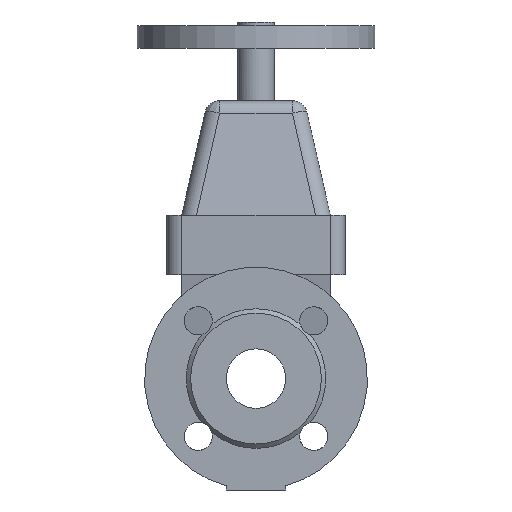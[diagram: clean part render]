
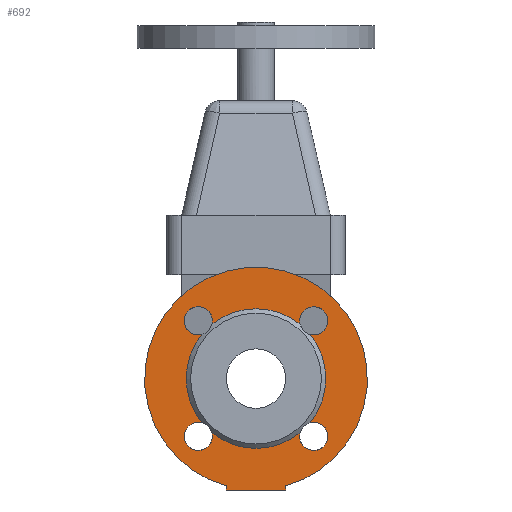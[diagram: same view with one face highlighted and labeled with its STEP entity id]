
A CAD part, front view. The second image highlights one B-rep face of the part: STEP entity #692.
In plain terms, the highlighted planar face has unit normal (0, -1, 0).
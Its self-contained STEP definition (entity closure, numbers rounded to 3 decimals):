
#692=ADVANCED_FACE('',(#1458,#1460),#1462,.T.);
#1458=FACE_BOUND('',#1459,.T.);
#1459=EDGE_LOOP('',(#2309,#2310,#2311,#2312));
#1460=FACE_BOUND('',#1461,.T.);
#1461=EDGE_LOOP('',(#2313,#2314,#2315,#2316,#2317,#2318,#2319,#2320,#2321,#2322,
#2323,#2324,#2325));
#1462=PLANE('',#1463);
#1463=AXIS2_PLACEMENT_3D('',#1464,#1465,#1466);
#1464=CARTESIAN_POINT('',(0.,-117.,0.));
#1465=DIRECTION('',(0.,-1.,0.));
#1466=DIRECTION('',(0.,0.,1.));
#2309=ORIENTED_EDGE('',*,*,#2576,.T.);
#2310=ORIENTED_EDGE('',*,*,#2575,.F.);
#2311=ORIENTED_EDGE('',*,*,#2572,.F.);
#2312=ORIENTED_EDGE('',*,*,#2571,.F.);
#2313=ORIENTED_EDGE('',*,*,#2586,.T.);
#2314=ORIENTED_EDGE('',*,*,#2588,.T.);
#2315=ORIENTED_EDGE('',*,*,#2625,.T.);
#2316=ORIENTED_EDGE('',*,*,#2585,.T.);
#2317=ORIENTED_EDGE('',*,*,#2584,.T.);
#2318=ORIENTED_EDGE('',*,*,#2626,.T.);
#2319=ORIENTED_EDGE('',*,*,#2582,.T.);
#2320=ORIENTED_EDGE('',*,*,#2581,.T.);
#2321=ORIENTED_EDGE('',*,*,#2627,.T.);
#2322=ORIENTED_EDGE('',*,*,#2577,.T.);
#2323=ORIENTED_EDGE('',*,*,#2579,.T.);
#2324=ORIENTED_EDGE('',*,*,#2628,.T.);
#2325=ORIENTED_EDGE('',*,*,#2629,.T.);
#2571=EDGE_CURVE('',#2911,#2909,#2913,.T.);
#2572=EDGE_CURVE('',#2909,#2914,#2915,.T.);
#2575=EDGE_CURVE('',#2914,#2917,#2919,.T.);
#2576=EDGE_CURVE('',#2911,#2917,#2920,.T.);
#2577=EDGE_CURVE('',#2921,#2922,#2923,.F.);
#2579=EDGE_CURVE('',#2922,#2924,#2926,.F.);
#2581=EDGE_CURVE('',#2930,#2927,#2931,.F.);
#2582=EDGE_CURVE('',#2928,#2930,#2932,.F.);
#2584=EDGE_CURVE('',#2936,#2933,#2937,.F.);
#2585=EDGE_CURVE('',#2934,#2936,#2938,.F.);
#2586=EDGE_CURVE('',#2939,#2940,#2941,.F.);
#2588=EDGE_CURVE('',#2940,#2942,#2944,.F.);
#2625=EDGE_CURVE('',#2942,#2934,#3005,.T.);
#2626=EDGE_CURVE('',#2933,#2928,#3006,.T.);
#2627=EDGE_CURVE('',#2927,#2921,#3007,.T.);
#2628=EDGE_CURVE('',#2924,#3008,#3009,.T.);
#2629=EDGE_CURVE('',#3008,#2939,#3010,.T.);
#2909=VERTEX_POINT('',#3645);
#2911=VERTEX_POINT('',#3649);
#2913=CIRCLE('',#3653,75.);
#2914=VERTEX_POINT('',#3657);
#2915=LINE('',#3658,#3659);
#2917=VERTEX_POINT('',#3664);
#2919=LINE('',#3668,#3669);
#2920=LINE('',#3671,#3672);
#2921=VERTEX_POINT('',#3674);
#2922=VERTEX_POINT('',#3675);
#2923=CIRCLE('',#3676,9.5);
#2924=VERTEX_POINT('',#3680);
#2926=CIRCLE('',#3773,9.5);
#2927=VERTEX_POINT('',#3777);
#2928=VERTEX_POINT('',#3778);
#2930=VERTEX_POINT('',#3871);
#2931=CIRCLE('',#3872,9.5);
#2932=CIRCLE('',#3876,9.5);
#2933=VERTEX_POINT('',#3880);
#2934=VERTEX_POINT('',#3881);
#2936=VERTEX_POINT('',#3974);
#2937=CIRCLE('',#3975,9.5);
#2938=CIRCLE('',#3979,9.5);
#2939=VERTEX_POINT('',#3983);
#2940=VERTEX_POINT('',#3984);
#2941=CIRCLE('',#3985,9.5);
#2942=VERTEX_POINT('',#3989);
#2944=CIRCLE('',#4082,9.5);
#3005=CIRCLE('',#4507,47.);
#3006=CIRCLE('',#4511,47.);
#3007=CIRCLE('',#4515,47.);
#3008=VERTEX_POINT('',#4519);
#3009=CIRCLE('',#4520,47.);
#3010=CIRCLE('',#4524,47.);
#3645=CARTESIAN_POINT('',(20.,-117.,-72.284));
#3649=CARTESIAN_POINT('',(-20.,-117.,-72.284));
#3653=AXIS2_PLACEMENT_3D('',#3654,#3655,#3656);
#3654=CARTESIAN_POINT('',(0.,-117.,0.));
#3655=DIRECTION('',(0.,1.,0.));
#3656=DIRECTION('',(-0.267,0.,-0.964));
#3657=CARTESIAN_POINT('',(20.,-117.,-75.));
#3658=CARTESIAN_POINT('',(20.,-117.,-72.284));
#3659=VECTOR('',#3660,1.);
#3660=DIRECTION('',(0.,0.,-1.));
#3664=CARTESIAN_POINT('',(-20.,-117.,-75.));
#3668=CARTESIAN_POINT('',(20.,-117.,-75.));
#3669=VECTOR('',#3670,1.);
#3670=DIRECTION('',(-1.,0.,0.));
#3671=CARTESIAN_POINT('',(-20.,-117.,-72.284));
#3672=VECTOR('',#3673,1.);
#3673=DIRECTION('',(0.,0.,-1.));
#3674=CARTESIAN_POINT('',(-36.41,-117.,29.721));
#3675=CARTESIAN_POINT('',(-29.391,-117.,38.891));
#3676=AXIS2_PLACEMENT_3D('',#3677,#3678,#3679);
#3677=CARTESIAN_POINT('',(-38.891,-117.,38.891));
#3678=DIRECTION('',(0.,-1.,0.));
#3679=DIRECTION('',(1.,0.,0.));
#3680=CARTESIAN_POINT('',(-29.721,-117.,36.41));
#3773=AXIS2_PLACEMENT_3D('',#3774,#3775,#3776);
#3774=CARTESIAN_POINT('',(-38.891,-117.,38.891));
#3775=DIRECTION('',(0.,-1.,0.));
#3776=DIRECTION('',(0.965,0.,-0.261));
#3777=CARTESIAN_POINT('',(-36.41,-117.,-29.721));
#3778=CARTESIAN_POINT('',(-29.721,-117.,-36.41));
#3871=CARTESIAN_POINT('',(-38.891,-117.,-29.391));
#3872=AXIS2_PLACEMENT_3D('',#3873,#3874,#3875);
#3873=CARTESIAN_POINT('',(-38.891,-117.,-38.891));
#3874=DIRECTION('',(0.,-1.,0.));
#3875=DIRECTION('',(0.261,0.,0.965));
#3876=AXIS2_PLACEMENT_3D('',#3877,#3878,#3879);
#3877=CARTESIAN_POINT('',(-38.891,-117.,-38.891));
#3878=DIRECTION('',(0.,-1.,0.));
#3879=DIRECTION('',(0.,0.,1.));
#3880=CARTESIAN_POINT('',(29.721,-117.,-36.41));
#3881=CARTESIAN_POINT('',(36.41,-117.,-29.721));
#3974=CARTESIAN_POINT('',(29.391,-117.,-38.891));
#3975=AXIS2_PLACEMENT_3D('',#3976,#3977,#3978);
#3976=CARTESIAN_POINT('',(38.891,-117.,-38.891));
#3977=DIRECTION('',(0.,-1.,0.));
#3978=DIRECTION('',(-0.965,0.,0.261));
#3979=AXIS2_PLACEMENT_3D('',#3980,#3981,#3982);
#3980=CARTESIAN_POINT('',(38.891,-117.,-38.891));
#3981=DIRECTION('',(0.,-1.,0.));
#3982=DIRECTION('',(-1.,0.,0.));
#3983=CARTESIAN_POINT('',(29.721,-117.,36.41));
#3984=CARTESIAN_POINT('',(38.891,-117.,29.391));
#3985=AXIS2_PLACEMENT_3D('',#3986,#3987,#3988);
#3986=CARTESIAN_POINT('',(38.891,-117.,38.891));
#3987=DIRECTION('',(0.,-1.,0.));
#3988=DIRECTION('',(0.,0.,-1.));
#3989=CARTESIAN_POINT('',(36.41,-117.,29.721));
#4082=AXIS2_PLACEMENT_3D('',#4083,#4084,#4085);
#4083=CARTESIAN_POINT('',(38.891,-117.,38.891));
#4084=DIRECTION('',(0.,-1.,0.));
#4085=DIRECTION('',(-0.261,0.,-0.965));
#4507=AXIS2_PLACEMENT_3D('',#4508,#4509,#4510);
#4508=CARTESIAN_POINT('',(0.,-117.,0.));
#4509=DIRECTION('',(0.,1.,0.));
#4510=DIRECTION('',(0.775,0.,0.632));
#4511=AXIS2_PLACEMENT_3D('',#4512,#4513,#4514);
#4512=CARTESIAN_POINT('',(0.,-117.,0.));
#4513=DIRECTION('',(0.,1.,0.));
#4514=DIRECTION('',(0.632,0.,-0.775));
#4515=AXIS2_PLACEMENT_3D('',#4516,#4517,#4518);
#4516=CARTESIAN_POINT('',(0.,-117.,0.));
#4517=DIRECTION('',(0.,1.,0.));
#4518=DIRECTION('',(-0.775,0.,-0.632));
#4519=CARTESIAN_POINT('',(0.,-117.,47.));
#4520=AXIS2_PLACEMENT_3D('',#4521,#4522,#4523);
#4521=CARTESIAN_POINT('',(0.,-117.,0.));
#4522=DIRECTION('',(0.,1.,0.));
#4523=DIRECTION('',(-0.632,0.,0.775));
#4524=AXIS2_PLACEMENT_3D('',#4525,#4526,#4527);
#4525=CARTESIAN_POINT('',(0.,-117.,0.));
#4526=DIRECTION('',(0.,1.,0.));
#4527=DIRECTION('',(0.,0.,1.));
